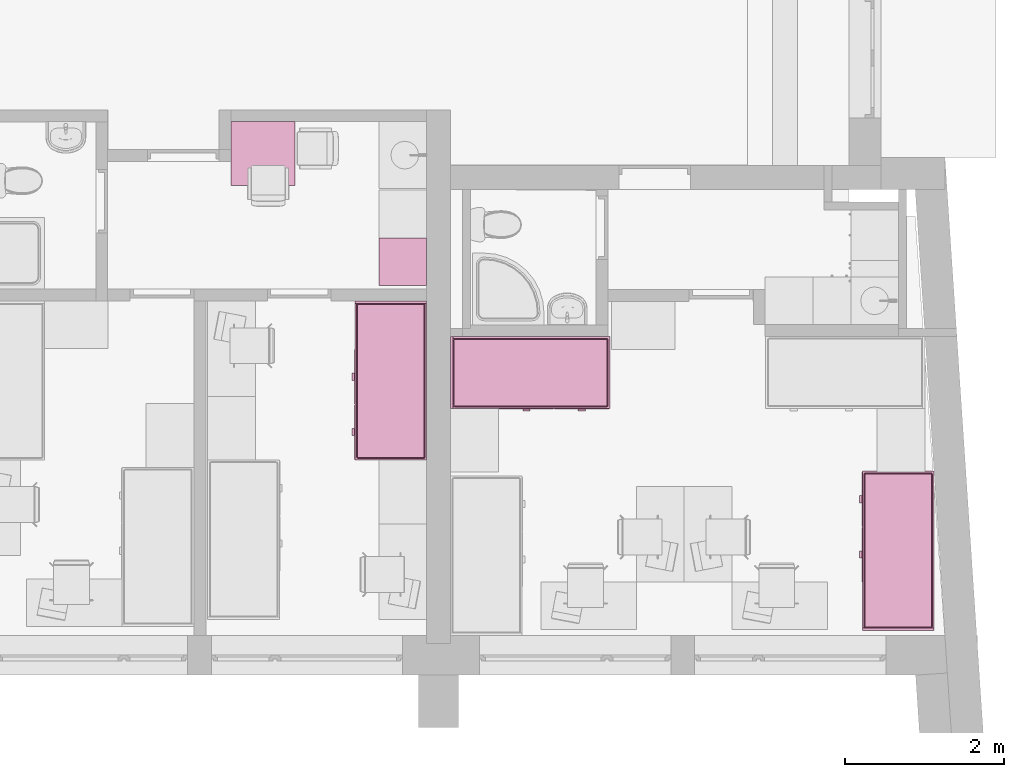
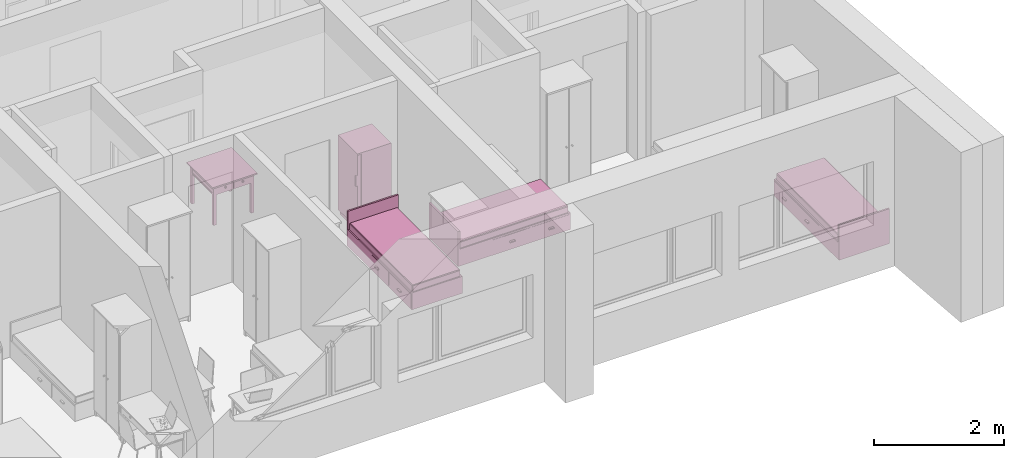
# One storey, part 142 of 165: 5 furnishings.
"""IFC2X3 building model written with IfcOpenShell, lengths in millimetres."""

from ifc_helpers import new_model, entity, si_unit, converted_unit, money_unit, direction, frame, origin_with_axes, place, context, subcontext, project, spatial, open_shell, faceted_brep, surface_model, source, transform, mapped, material, material_list, type_object, element, save


model = new_model("IFC2X3")

# Units and contexts
model_context = context("Model", 3, precision=1e-05, world=origin_with_axes(), true_north=direction((0.0, 1.0)))
body_context = subcontext(model_context, "Body", "Model", "MODEL_VIEW")
ifc_project = project(units=[si_unit("LENGTHUNIT", "METRE", prefix="MILLI"), si_unit("AREAUNIT", "SQUARE_METRE"), si_unit("VOLUMEUNIT", "CUBIC_METRE"), converted_unit("PLANEANGLEUNIT", "DEGREE", entity("IfcPlaneAngleMeasure", 0.0174532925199), si_unit("PLANEANGLEUNIT", "RADIAN"), dimensions=[0, 0, 0, 0, 0, 0, 0]), si_unit("SOLIDANGLEUNIT", "STERADIAN"), money_unit("USD"), converted_unit("TIMEUNIT", "Year", entity("IfcTimeMeasure", 31556926.0), si_unit("TIMEUNIT", "SECOND"), dimensions=[0, 0, 0, 0, 0, 0, 0]), si_unit("MASSUNIT", "GRAM"), si_unit("THERMODYNAMICTEMPERATUREUNIT", "DEGREE_CELSIUS"), si_unit("LUMINOUSINTENSITYUNIT", "LUMEN")], contexts=[model_context])

# Site, building, storey
site_placement = place(None, origin_with_axes())
site = spatial("IfcSite", under=ifc_project, at=site_placement, Name="Site", CompositionType="ELEMENT")
building_placement = place(site_placement, origin_with_axes())
building = spatial("IfcBuilding", under=site, at=building_placement, Name="Building", CompositionType="ELEMENT")
storey_placement = place(building_placement, frame((0.0, 0.0, 6300.0), z_axis=(0.0, 0.0, 1.0), x_axis=(1.0, 0.0, 0.0)))
storey = spatial("IfcBuildingStorey", under=building, at=storey_placement, Name="4KORRUS", CompositionType="ELEMENT", Elevation=6300.0)

# Furnishings
ifc_material = material(Name="Background")
ifc_material_list = material_list([ifc_material])
furnishing_element_type_1 = type_object("IfcFurnishingElementType", Name="Bed 19")
shared_shape_1 = source(origin_with_axes(), body_context, "Body", "Brep", [
    faceted_brep([(900.0, 1970.0, 0.0), (0.0, 1970.0, 0.0), (0.0, 2000.0, 0.0), (900.0, 2000.0, 0.0), (900.0, 1970.0, 660.0), (0.0, 1970.0, 660.0), (0.0, 2000.0, 660.0), (900.0, 2000.0, 660.0)], [[[0, 1, 2, 3]], [[1, 0, 4, 5]], [[2, 1, 5, 6]], [[3, 2, 6, 7]], [[0, 3, 7, 4]], [[5, 4, 7, 6]]]),
    faceted_brep([(900.0, 0.0, 0.0), (0.0, 0.0, 0.0), (0.0, 1970.0, 0.0), (900.0, 1970.0, 0.0), (900.0, 0.0, 320.0), (0.0, 0.0, 320.0), (0.0, 1970.0, 320.0), (900.0, 1970.0, 320.0)], [[[0, 1, 2, 3]], [[1, 0, 4, 5]], [[2, 1, 5, 6]], [[3, 2, 6, 7]], [[0, 3, 7, 4]], [[5, 4, 7, 6]]]),
    faceted_brep([(905.0, 10.0, 30.0), (900.0, 10.0, 30.0), (900.0, 695.0, 30.0), (905.0, 695.0, 30.0), (905.0, 10.0, 290.0), (900.0, 10.0, 290.0), (900.0, 695.0, 290.0), (905.0, 695.0, 290.0)], [[[0, 1, 2, 3]], [[1, 0, 4, 5]], [[2, 1, 5, 6]], [[3, 2, 6, 7]], [[0, 3, 7, 4]], [[5, 4, 7, 6]]]),
    faceted_brep([(935.0, 307.5, 150.0), (905.0, 307.5, 150.0), (905.0, 397.5, 150.0), (935.0, 397.5, 150.0), (935.0, 307.5, 170.0), (905.0, 307.5, 170.0), (905.0, 397.5, 170.0), (935.0, 397.5, 170.0)], [[[0, 1, 2, 3]], [[1, 0, 4, 5]], [[2, 1, 5, 6]], [[3, 2, 6, 7]], [[0, 3, 7, 4]], [[5, 4, 7, 6]]]),
    faceted_brep([(905.0, 705.0, 30.0), (900.0, 705.0, 30.0), (900.0, 1390.0, 30.0), (905.0, 1390.0, 30.0), (905.0, 705.0, 290.0), (900.0, 705.0, 290.0), (900.0, 1390.0, 290.0), (905.0, 1390.0, 290.0)], [[[0, 1, 2, 3]], [[1, 0, 4, 5]], [[2, 1, 5, 6]], [[3, 2, 6, 7]], [[0, 3, 7, 4]], [[5, 4, 7, 6]]]),
    faceted_brep([(935.0, 1002.5, 150.0), (905.0, 1002.5, 150.0), (905.0, 1092.5, 150.0), (935.0, 1092.5, 150.0), (935.0, 1002.5, 170.0), (905.0, 1002.5, 170.0), (905.0, 1092.5, 170.0), (935.0, 1092.5, 170.0)], [[[0, 1, 2, 3]], [[1, 0, 4, 5]], [[2, 1, 5, 6]], [[3, 2, 6, 7]], [[0, 3, 7, 4]], [[5, 4, 7, 6]]]),
    faceted_brep([(20.0, 40.0, 350.0), (20.0, 1950.0, 350.0), (21.522, 1957.654, 350.0), (25.858, 1964.142, 350.0), (32.346, 1968.478, 350.0), (40.0, 1970.0, 350.0), (860.0, 1970.0, 350.0), (867.654, 1968.478, 350.0), (874.142, 1964.142, 350.0), (878.478, 1957.654, 350.0), (880.0, 1950.0, 350.0), (880.0, 40.0, 350.0), (878.478, 32.346, 350.0), (874.142, 25.858, 350.0), (867.654, 21.522, 350.0), (860.0, 20.0, 350.0), (40.0, 20.0, 350.0), (32.346, 21.522, 350.0), (25.858, 25.858, 350.0), (21.522, 32.346, 350.0), (20.0, 40.0, 420.0), (20.0, 1950.0, 420.0), (21.522, 1957.654, 420.0), (25.858, 1964.142, 420.0), (32.346, 1968.478, 420.0), (40.0, 1970.0, 420.0), (860.0, 1970.0, 420.0), (867.654, 1968.478, 420.0), (874.142, 1964.142, 420.0), (878.478, 1957.654, 420.0), (880.0, 1950.0, 420.0), (880.0, 40.0, 420.0), (878.478, 32.346, 420.0), (874.142, 25.858, 420.0), (867.654, 21.522, 420.0), (860.0, 20.0, 420.0), (40.0, 20.0, 420.0), (32.346, 21.522, 420.0), (25.858, 25.858, 420.0), (21.522, 32.346, 420.0), (21.522, 40.15, 427.654), (21.522, 1949.85, 427.654), (22.956, 1957.06, 427.654), (26.955, 1963.045, 427.654), (32.94, 1967.044, 427.654), (40.15, 1968.478, 427.654), (859.85, 1968.478, 427.654), (867.06, 1967.044, 427.654), (873.045, 1963.045, 427.654), (877.044, 1957.06, 427.654), (878.478, 1949.85, 427.654), (878.478, 40.15, 427.654), (877.044, 32.94, 427.654), (873.045, 26.955, 427.654), (867.06, 22.956, 427.654), (859.85, 21.522, 427.654), (40.15, 21.522, 427.654), (32.94, 22.956, 427.654), (26.955, 26.955, 427.654), (22.956, 32.94, 427.654), (32.346, 41.216, 438.478), (32.346, 1948.784, 438.478), (33.152, 1952.836, 438.478), (34.759, 1955.241, 438.478), (37.164, 1956.848, 438.478), (41.216, 1957.654, 438.478), (858.784, 1957.654, 438.478), (862.836, 1956.848, 438.478), (865.241, 1955.241, 438.478), (866.848, 1952.836, 438.478), (867.654, 1948.784, 438.478), (867.654, 41.216, 438.478), (866.848, 37.164, 438.478), (865.241, 34.759, 438.478), (862.836, 33.152, 438.478), (858.784, 32.346, 438.478), (41.216, 32.346, 438.478), (37.164, 33.152, 438.478), (34.759, 34.759, 438.478), (33.152, 37.164, 438.478), (40.0, 41.97, 440.0), (40.0, 1948.03, 440.0), (40.327, 1949.673, 440.0), (40.0, 1950.0, 439.924), (41.97, 1950.0, 440.0), (858.03, 1950.0, 440.0), (859.673, 1949.673, 440.0), (860.0, 1950.0, 439.924), (860.0, 1948.03, 440.0), (860.0, 41.97, 440.0), (859.673, 40.327, 440.0), (860.0, 40.0, 439.924), (858.03, 40.0, 440.0), (41.97, 40.0, 440.0), (40.327, 40.327, 440.0), (40.0, 40.0, 439.924)], [[[0, 1, 2, 3, 4, 5, 6, 7, 8, 9, 10, 11, 12, 13, 14, 15, 16, 17, 18, 19]], [[1, 0, 20, 21]], [[2, 1, 21, 22]], [[3, 2, 22, 23]], [[4, 3, 23, 24]], [[5, 4, 24, 25]], [[6, 5, 25, 26]], [[7, 6, 26, 27]], [[8, 7, 27, 28]], [[9, 8, 28, 29]], [[10, 9, 29, 30]], [[11, 10, 30, 31]], [[12, 11, 31, 32]], [[13, 12, 32, 33]], [[14, 13, 33, 34]], [[15, 14, 34, 35]], [[16, 15, 35, 36]], [[17, 16, 36, 37]], [[18, 17, 37, 38]], [[19, 18, 38, 39]], [[0, 19, 39, 20]], [[21, 20, 40, 41]], [[22, 21, 41, 42]], [[23, 22, 42, 43]], [[24, 23, 43, 44]], [[25, 24, 44, 45]], [[26, 25, 45, 46]], [[27, 26, 46, 47]], [[28, 27, 47, 48]], [[29, 28, 48, 49]], [[30, 29, 49, 50]], [[31, 30, 50, 51]], [[32, 31, 51, 52]], [[33, 32, 52, 53]], [[34, 33, 53, 54]], [[35, 34, 54, 55]], [[36, 35, 55, 56]], [[37, 36, 56, 57]], [[38, 37, 57, 58]], [[39, 38, 58, 59]], [[20, 39, 59, 40]], [[41, 40, 60, 61]], [[42, 41, 61, 62]], [[43, 42, 62, 63]], [[44, 43, 63, 64]], [[45, 44, 64, 65]], [[46, 45, 65, 66]], [[47, 46, 66, 67]], [[48, 47, 67, 68]], [[49, 48, 68, 69]], [[50, 49, 69, 70]], [[51, 50, 70, 71]], [[52, 51, 71, 72]], [[53, 52, 72, 73]], [[54, 53, 73, 74]], [[55, 54, 74, 75]], [[56, 55, 75, 76]], [[57, 56, 76, 77]], [[58, 57, 77, 78]], [[59, 58, 78, 79]], [[40, 59, 79, 60]], [[61, 60, 80, 81]], [[62, 61, 81, 82, 83]], [[63, 62, 83]], [[64, 63, 83]], [[65, 64, 83, 82, 84]], [[66, 65, 84, 85]], [[67, 66, 85, 86, 87]], [[68, 67, 87]], [[69, 68, 87]], [[70, 69, 87, 86, 88]], [[71, 70, 88, 89]], [[72, 71, 89, 90, 91]], [[73, 72, 91]], [[74, 73, 91]], [[75, 74, 91, 90, 92]], [[76, 75, 92, 93]], [[77, 76, 93, 94, 95]], [[78, 77, 95]], [[79, 78, 95]], [[60, 79, 95, 94, 80]], [[81, 80, 94, 93, 92, 90, 89, 88, 86, 85, 84, 82]]]),
    faceted_brep([(20.0, 40.0, 350.0), (21.522, 32.346, 350.0), (25.858, 25.858, 350.0), (32.346, 21.522, 350.0), (40.0, 20.0, 350.0), (860.0, 20.0, 350.0), (867.654, 21.522, 350.0), (874.142, 25.858, 350.0), (878.478, 32.346, 350.0), (880.0, 40.0, 350.0), (880.0, 1950.0, 350.0), (878.478, 1957.654, 350.0), (874.142, 1964.142, 350.0), (867.654, 1968.478, 350.0), (860.0, 1970.0, 350.0), (40.0, 1970.0, 350.0), (32.346, 1968.478, 350.0), (25.858, 1964.142, 350.0), (21.522, 1957.654, 350.0), (20.0, 1950.0, 350.0), (20.0, 40.0, 320.0), (21.522, 32.346, 320.0), (25.858, 25.858, 320.0), (32.346, 21.522, 320.0), (40.0, 20.0, 320.0), (860.0, 20.0, 320.0), (867.654, 21.522, 320.0), (874.142, 25.858, 320.0), (878.478, 32.346, 320.0), (880.0, 40.0, 320.0), (880.0, 1950.0, 320.0), (878.478, 1957.654, 320.0), (874.142, 1964.142, 320.0), (867.654, 1968.478, 320.0), (860.0, 1970.0, 320.0), (40.0, 1970.0, 320.0), (32.346, 1968.478, 320.0), (25.858, 1964.142, 320.0), (21.522, 1957.654, 320.0), (20.0, 1950.0, 320.0)], [[[0, 1, 2, 3, 4, 5, 6, 7, 8, 9, 10, 11, 12, 13, 14, 15, 16, 17, 18, 19]], [[0, 20, 21, 1]], [[1, 21, 22, 2]], [[2, 22, 23, 3]], [[3, 23, 24, 4]], [[4, 24, 25, 5]], [[5, 25, 26, 6]], [[6, 26, 27, 7]], [[7, 27, 28, 8]], [[8, 28, 29, 9]], [[9, 29, 30, 10]], [[10, 30, 31, 11]], [[11, 31, 32, 12]], [[12, 32, 33, 13]], [[13, 33, 34, 14]], [[14, 34, 35, 15]], [[15, 35, 36, 16]], [[16, 36, 37, 17]], [[17, 37, 38, 18]], [[18, 38, 39, 19]], [[19, 39, 20, 0]], [[20, 39, 38, 37, 36, 35, 34, 33, 32, 31, 30, 29, 28, 27, 26, 25, 24, 23, 22, 21]]]),
])
furnishing_1_placement = place(storey_placement, frame((18080.4578375, -17578.2052379, 0.0), z_axis=(0.0, 0.0, 1.0), x_axis=(-1.0, 0.0, 0.0)))
element("IfcFurnishingElement", 1, at=furnishing_1_placement, inside=storey, type_object=furnishing_element_type_1, material=ifc_material_list, Name="FU - 013", context=body_context, shape_type="MappedRepresentation", body=[
    mapped(shared_shape_1, transform((0.0, 0.0, 0.0))),
])
shared_shape_2 = source(origin_with_axes(), body_context, "Body", "Brep", [
    faceted_brep([(-900.0, 1970.0, 0.0), (-900.0, 2000.0, 0.0), (0.0, 2000.0, 0.0), (0.0, 1970.0, 0.0), (-900.0, 1970.0, 660.0), (-900.0, 2000.0, 660.0), (0.0, 2000.0, 660.0), (0.0, 1970.0, 660.0)], [[[0, 1, 2, 3]], [[0, 4, 5, 1]], [[1, 5, 6, 2]], [[2, 6, 7, 3]], [[3, 7, 4, 0]], [[7, 6, 5, 4]]]),
    faceted_brep([(-900.0, 0.0, 0.0), (-900.0, 1970.0, 0.0), (0.0, 1970.0, 0.0), (0.0, 0.0, 0.0), (-900.0, 0.0, 320.0), (-900.0, 1970.0, 320.0), (0.0, 1970.0, 320.0), (0.0, 0.0, 320.0)], [[[0, 1, 2, 3]], [[0, 4, 5, 1]], [[1, 5, 6, 2]], [[2, 6, 7, 3]], [[3, 7, 4, 0]], [[7, 6, 5, 4]]]),
    faceted_brep([(-905.0, 10.0, 30.0), (-905.0, 695.0, 30.0), (-900.0, 695.0, 30.0), (-900.0, 10.0, 30.0), (-905.0, 10.0, 290.0), (-905.0, 695.0, 290.0), (-900.0, 695.0, 290.0), (-900.0, 10.0, 290.0)], [[[0, 1, 2, 3]], [[0, 4, 5, 1]], [[1, 5, 6, 2]], [[2, 6, 7, 3]], [[3, 7, 4, 0]], [[7, 6, 5, 4]]]),
    faceted_brep([(-935.0, 307.5, 150.0), (-935.0, 397.5, 150.0), (-905.0, 397.5, 150.0), (-905.0, 307.5, 150.0), (-935.0, 307.5, 170.0), (-935.0, 397.5, 170.0), (-905.0, 397.5, 170.0), (-905.0, 307.5, 170.0)], [[[0, 1, 2, 3]], [[0, 4, 5, 1]], [[1, 5, 6, 2]], [[2, 6, 7, 3]], [[3, 7, 4, 0]], [[7, 6, 5, 4]]]),
    faceted_brep([(-905.0, 705.0, 30.0), (-905.0, 1390.0, 30.0), (-900.0, 1390.0, 30.0), (-900.0, 705.0, 30.0), (-905.0, 705.0, 290.0), (-905.0, 1390.0, 290.0), (-900.0, 1390.0, 290.0), (-900.0, 705.0, 290.0)], [[[0, 1, 2, 3]], [[0, 4, 5, 1]], [[1, 5, 6, 2]], [[2, 6, 7, 3]], [[3, 7, 4, 0]], [[7, 6, 5, 4]]]),
    faceted_brep([(-935.0, 1002.5, 150.0), (-935.0, 1092.5, 150.0), (-905.0, 1092.5, 150.0), (-905.0, 1002.5, 150.0), (-935.0, 1002.5, 170.0), (-935.0, 1092.5, 170.0), (-905.0, 1092.5, 170.0), (-905.0, 1002.5, 170.0)], [[[0, 1, 2, 3]], [[0, 4, 5, 1]], [[1, 5, 6, 2]], [[2, 6, 7, 3]], [[3, 7, 4, 0]], [[7, 6, 5, 4]]]),
    faceted_brep([(-20.0, 40.0, 350.0), (-21.522, 32.346, 350.0), (-25.858, 25.858, 350.0), (-32.346, 21.522, 350.0), (-40.0, 20.0, 350.0), (-860.0, 20.0, 350.0), (-867.654, 21.522, 350.0), (-874.142, 25.858, 350.0), (-878.478, 32.346, 350.0), (-880.0, 40.0, 350.0), (-880.0, 1950.0, 350.0), (-878.478, 1957.654, 350.0), (-874.142, 1964.142, 350.0), (-867.654, 1968.478, 350.0), (-860.0, 1970.0, 350.0), (-40.0, 1970.0, 350.0), (-32.346, 1968.478, 350.0), (-25.858, 1964.142, 350.0), (-21.522, 1957.654, 350.0), (-20.0, 1950.0, 350.0), (-20.0, 40.0, 420.0), (-21.522, 32.346, 420.0), (-25.858, 25.858, 420.0), (-32.346, 21.522, 420.0), (-40.0, 20.0, 420.0), (-860.0, 20.0, 420.0), (-867.654, 21.522, 420.0), (-874.142, 25.858, 420.0), (-878.478, 32.346, 420.0), (-880.0, 40.0, 420.0), (-880.0, 1950.0, 420.0), (-878.478, 1957.654, 420.0), (-874.142, 1964.142, 420.0), (-867.654, 1968.478, 420.0), (-860.0, 1970.0, 420.0), (-40.0, 1970.0, 420.0), (-32.346, 1968.478, 420.0), (-25.858, 1964.142, 420.0), (-21.522, 1957.654, 420.0), (-20.0, 1950.0, 420.0), (-21.522, 40.15, 427.654), (-22.956, 32.94, 427.654), (-26.955, 26.955, 427.654), (-32.94, 22.956, 427.654), (-40.15, 21.522, 427.654), (-859.85, 21.522, 427.654), (-867.06, 22.956, 427.654), (-873.045, 26.955, 427.654), (-877.044, 32.94, 427.654), (-878.478, 40.15, 427.654), (-878.478, 1949.85, 427.654), (-877.044, 1957.06, 427.654), (-873.045, 1963.045, 427.654), (-867.06, 1967.044, 427.654), (-859.85, 1968.478, 427.654), (-40.15, 1968.478, 427.654), (-32.94, 1967.044, 427.654), (-26.955, 1963.045, 427.654), (-22.956, 1957.06, 427.654), (-21.522, 1949.85, 427.654), (-32.346, 41.216, 438.478), (-33.152, 37.164, 438.478), (-34.759, 34.759, 438.478), (-37.164, 33.152, 438.478), (-41.216, 32.346, 438.478), (-858.784, 32.346, 438.478), (-862.836, 33.152, 438.478), (-865.241, 34.759, 438.478), (-866.848, 37.164, 438.478), (-867.654, 41.216, 438.478), (-867.654, 1948.784, 438.478), (-866.848, 1952.836, 438.478), (-865.241, 1955.241, 438.478), (-862.836, 1956.848, 438.478), (-858.784, 1957.654, 438.478), (-41.216, 1957.654, 438.478), (-37.164, 1956.848, 438.478), (-34.759, 1955.241, 438.478), (-33.152, 1952.836, 438.478), (-32.346, 1948.784, 438.478), (-40.0, 41.97, 440.0), (-40.327, 40.327, 440.0), (-40.0, 40.0, 439.924), (-41.97, 40.0, 440.0), (-858.03, 40.0, 440.0), (-859.673, 40.327, 440.0), (-860.0, 40.0, 439.924), (-860.0, 41.97, 440.0), (-860.0, 1948.03, 440.0), (-859.673, 1949.673, 440.0), (-860.0, 1950.0, 439.924), (-858.03, 1950.0, 440.0), (-41.97, 1950.0, 440.0), (-40.327, 1949.673, 440.0), (-40.0, 1950.0, 439.924), (-40.0, 1948.03, 440.0)], [[[0, 1, 2, 3, 4, 5, 6, 7, 8, 9, 10, 11, 12, 13, 14, 15, 16, 17, 18, 19]], [[0, 20, 21, 1]], [[1, 21, 22, 2]], [[2, 22, 23, 3]], [[3, 23, 24, 4]], [[4, 24, 25, 5]], [[5, 25, 26, 6]], [[6, 26, 27, 7]], [[7, 27, 28, 8]], [[8, 28, 29, 9]], [[9, 29, 30, 10]], [[10, 30, 31, 11]], [[11, 31, 32, 12]], [[12, 32, 33, 13]], [[13, 33, 34, 14]], [[14, 34, 35, 15]], [[15, 35, 36, 16]], [[16, 36, 37, 17]], [[17, 37, 38, 18]], [[18, 38, 39, 19]], [[19, 39, 20, 0]], [[20, 40, 41, 21]], [[21, 41, 42, 22]], [[22, 42, 43, 23]], [[23, 43, 44, 24]], [[24, 44, 45, 25]], [[25, 45, 46, 26]], [[26, 46, 47, 27]], [[27, 47, 48, 28]], [[28, 48, 49, 29]], [[29, 49, 50, 30]], [[30, 50, 51, 31]], [[31, 51, 52, 32]], [[32, 52, 53, 33]], [[33, 53, 54, 34]], [[34, 54, 55, 35]], [[35, 55, 56, 36]], [[36, 56, 57, 37]], [[37, 57, 58, 38]], [[38, 58, 59, 39]], [[39, 59, 40, 20]], [[40, 60, 61, 41]], [[41, 61, 62, 42]], [[42, 62, 63, 43]], [[43, 63, 64, 44]], [[44, 64, 65, 45]], [[45, 65, 66, 46]], [[46, 66, 67, 47]], [[47, 67, 68, 48]], [[48, 68, 69, 49]], [[49, 69, 70, 50]], [[50, 70, 71, 51]], [[51, 71, 72, 52]], [[52, 72, 73, 53]], [[53, 73, 74, 54]], [[54, 74, 75, 55]], [[55, 75, 76, 56]], [[56, 76, 77, 57]], [[57, 77, 78, 58]], [[58, 78, 79, 59]], [[59, 79, 60, 40]], [[60, 80, 81, 82, 61]], [[61, 82, 62]], [[62, 82, 63]], [[63, 82, 81, 83, 64]], [[64, 83, 84, 65]], [[65, 84, 85, 86, 66]], [[66, 86, 67]], [[67, 86, 68]], [[68, 86, 85, 87, 69]], [[69, 87, 88, 70]], [[70, 88, 89, 90, 71]], [[71, 90, 72]], [[72, 90, 73]], [[73, 90, 89, 91, 74]], [[74, 91, 92, 75]], [[75, 92, 93, 94, 76]], [[76, 94, 77]], [[77, 94, 78]], [[78, 94, 93, 95, 79]], [[79, 95, 80, 60]], [[95, 93, 92, 91, 89, 88, 87, 85, 84, 83, 81, 80]]]),
    faceted_brep([(-20.0, 40.0, 350.0), (-20.0, 1950.0, 350.0), (-21.522, 1957.654, 350.0), (-25.858, 1964.142, 350.0), (-32.346, 1968.478, 350.0), (-40.0, 1970.0, 350.0), (-860.0, 1970.0, 350.0), (-867.654, 1968.478, 350.0), (-874.142, 1964.142, 350.0), (-878.478, 1957.654, 350.0), (-880.0, 1950.0, 350.0), (-880.0, 40.0, 350.0), (-878.478, 32.346, 350.0), (-874.142, 25.858, 350.0), (-867.654, 21.522, 350.0), (-860.0, 20.0, 350.0), (-40.0, 20.0, 350.0), (-32.346, 21.522, 350.0), (-25.858, 25.858, 350.0), (-21.522, 32.346, 350.0), (-20.0, 40.0, 320.0), (-20.0, 1950.0, 320.0), (-21.522, 1957.654, 320.0), (-25.858, 1964.142, 320.0), (-32.346, 1968.478, 320.0), (-40.0, 1970.0, 320.0), (-860.0, 1970.0, 320.0), (-867.654, 1968.478, 320.0), (-874.142, 1964.142, 320.0), (-878.478, 1957.654, 320.0), (-880.0, 1950.0, 320.0), (-880.0, 40.0, 320.0), (-878.478, 32.346, 320.0), (-874.142, 25.858, 320.0), (-867.654, 21.522, 320.0), (-860.0, 20.0, 320.0), (-40.0, 20.0, 320.0), (-32.346, 21.522, 320.0), (-25.858, 25.858, 320.0), (-21.522, 32.346, 320.0)], [[[0, 1, 2, 3, 4, 5, 6, 7, 8, 9, 10, 11, 12, 13, 14, 15, 16, 17, 18, 19]], [[1, 0, 20, 21]], [[2, 1, 21, 22]], [[3, 2, 22, 23]], [[4, 3, 23, 24]], [[5, 4, 24, 25]], [[6, 5, 25, 26]], [[7, 6, 26, 27]], [[8, 7, 27, 28]], [[9, 8, 28, 29]], [[10, 9, 29, 30]], [[11, 10, 30, 31]], [[12, 11, 31, 32]], [[13, 12, 32, 33]], [[14, 13, 33, 34]], [[15, 14, 34, 35]], [[16, 15, 35, 36]], [[17, 16, 36, 37]], [[18, 17, 37, 38]], [[19, 18, 38, 39]], [[0, 19, 39, 20]], [[20, 39, 38, 37, 36, 35, 34, 33, 32, 31, 30, 29, 28, 27, 26, 25, 24, 23, 22, 21]]]),
])
for number, where, z_axis, x_axis, name in (
    (2, (11709.7032967, -17439.2398994, 0.0), (0.0, 0.0, 1.0), (1.0, 0.0, 0.0), "FU - 013"),
    (3, (14009.7032967, -15889.0262806, 0.0), (0.0, 0.0, 1.0), (0.0, 1.0, 0.0), "FU - 013"),
):
    element("IfcFurnishingElement", number, at=place(storey_placement, frame(where, z_axis=z_axis, x_axis=x_axis)), inside=storey, type_object=furnishing_element_type_1, material=ifc_material_list, Name=name, context=body_context, shape_type="MappedRepresentation", body=[
        mapped(shared_shape_2, transform((0.0, 0.0, 0.0))),
    ])
furnishing_element_type_2 = type_object("IfcFurnishingElementType", Name="Rectangular Table 01 19")
shared_shape_3 = source(origin_with_axes(), body_context, "Body", "Brep", [
    faceted_brep([(90.0, 40.0, 0.0), (40.0, 40.0, 0.0), (40.0, 90.0, 0.0), (90.0, 90.0, 0.0), (90.0, 40.0, 725.0), (40.0, 40.0, 725.0), (40.0, 90.0, 725.0), (90.0, 90.0, 725.0)], [[[0, 1, 2, 3]], [[1, 0, 4, 5]], [[2, 1, 5, 6]], [[3, 2, 6, 7]], [[0, 3, 7, 4]], [[5, 4, 7, 6]]]),
    faceted_brep([(760.0, 40.0, 0.0), (710.0, 40.0, 0.0), (710.0, 90.0, 0.0), (760.0, 90.0, 0.0), (760.0, 40.0, 725.0), (710.0, 40.0, 725.0), (710.0, 90.0, 725.0), (760.0, 90.0, 725.0)], [[[0, 1, 2, 3]], [[1, 0, 4, 5]], [[2, 1, 5, 6]], [[3, 2, 6, 7]], [[0, 3, 7, 4]], [[5, 4, 7, 6]]]),
    faceted_brep([(90.0, 710.0, 0.0), (40.0, 710.0, 0.0), (40.0, 760.0, 0.0), (90.0, 760.0, 0.0), (90.0, 710.0, 725.0), (40.0, 710.0, 725.0), (40.0, 760.0, 725.0), (90.0, 760.0, 725.0)], [[[0, 1, 2, 3]], [[1, 0, 4, 5]], [[2, 1, 5, 6]], [[3, 2, 6, 7]], [[0, 3, 7, 4]], [[5, 4, 7, 6]]]),
    faceted_brep([(760.0, 710.0, 0.0), (710.0, 710.0, 0.0), (710.0, 760.0, 0.0), (760.0, 760.0, 0.0), (760.0, 710.0, 725.0), (710.0, 710.0, 725.0), (710.0, 760.0, 725.0), (760.0, 760.0, 725.0)], [[[0, 1, 2, 3]], [[1, 0, 4, 5]], [[2, 1, 5, 6]], [[3, 2, 6, 7]], [[0, 3, 7, 4]], [[5, 4, 7, 6]]]),
    faceted_brep([(760.0, 40.0, 565.0), (40.0, 40.0, 565.0), (40.0, 760.0, 565.0), (760.0, 760.0, 565.0), (760.0, 40.0, 585.0), (40.0, 40.0, 585.0), (40.0, 760.0, 585.0), (760.0, 760.0, 585.0)], [[[0, 1, 2, 3]], [[1, 0, 4, 5]], [[2, 1, 5, 6]], [[3, 2, 6, 7]], [[0, 3, 7, 4]], [[5, 4, 7, 6]]]),
    faceted_brep([(710.0, 52.5, 585.0), (90.0, 52.5, 585.0), (90.0, 77.5, 585.0), (710.0, 77.5, 585.0), (710.0, 52.5, 745.0), (90.0, 52.5, 745.0), (90.0, 77.5, 745.0), (710.0, 77.5, 745.0)], [[[0, 1, 2, 3]], [[1, 0, 4, 5]], [[2, 1, 5, 6]], [[3, 2, 6, 7]], [[0, 3, 7, 4]], [[5, 4, 7, 6]]]),
    faceted_brep([(77.5, 90.0, 585.0), (52.5, 90.0, 585.0), (52.5, 710.0, 585.0), (77.5, 710.0, 585.0), (77.5, 90.0, 745.0), (52.5, 90.0, 745.0), (52.5, 710.0, 745.0), (77.5, 710.0, 745.0)], [[[0, 1, 2, 3]], [[1, 0, 4, 5]], [[2, 1, 5, 6]], [[3, 2, 6, 7]], [[0, 3, 7, 4]], [[5, 4, 7, 6]]]),
    faceted_brep([(90.0, 747.5, 585.0), (710.0, 747.5, 585.0), (710.0, 722.5, 585.0), (90.0, 722.5, 585.0), (90.0, 747.5, 745.0), (710.0, 747.5, 745.0), (710.0, 722.5, 745.0), (90.0, 722.5, 745.0)], [[[0, 1, 2, 3]], [[1, 0, 4, 5]], [[2, 1, 5, 6]], [[3, 2, 6, 7]], [[0, 3, 7, 4]], [[5, 4, 7, 6]]]),
    faceted_brep([(722.5, 710.0, 585.0), (747.5, 710.0, 585.0), (747.5, 90.0, 585.0), (722.5, 90.0, 585.0), (722.5, 710.0, 745.0), (747.5, 710.0, 745.0), (747.5, 90.0, 745.0), (722.5, 90.0, 745.0)], [[[0, 1, 2, 3]], [[1, 0, 4, 5]], [[2, 1, 5, 6]], [[3, 2, 6, 7]], [[0, 3, 7, 4]], [[5, 4, 7, 6]]]),
    faceted_brep([(397.5, 40.0, 585.0), (95.0, 40.0, 585.0), (95.0, 60.0, 585.0), (397.5, 60.0, 585.0), (397.5, 40.0, 745.0), (95.0, 40.0, 745.0), (95.0, 60.0, 745.0), (397.5, 60.0, 745.0)], [[[0, 1, 2, 3]], [[1, 0, 4, 5]], [[2, 1, 5, 6]], [[3, 2, 6, 7]], [[0, 3, 7, 4]], [[5, 4, 7, 6]]]),
    faceted_brep([(705.0, 40.0, 585.0), (402.5, 40.0, 585.0), (402.5, 60.0, 585.0), (705.0, 60.0, 585.0), (705.0, 40.0, 745.0), (402.5, 40.0, 745.0), (402.5, 60.0, 745.0), (705.0, 60.0, 745.0)], [[[0, 1, 2, 3]], [[1, 0, 4, 5]], [[2, 1, 5, 6]], [[3, 2, 6, 7]], [[0, 3, 7, 4]], [[5, 4, 7, 6]]]),
    faceted_brep([(254.91, 40.0, 660.0), (251.25, 40.0, 656.34), (246.25, 40.0, 655.0), (241.25, 40.0, 656.34), (237.59, 40.0, 660.0), (236.25, 40.0, 665.0), (237.59, 40.0, 670.0), (241.25, 40.0, 673.66), (246.25, 40.0, 675.0), (251.25, 40.0, 673.66), (254.91, 40.0, 670.0), (256.25, 40.0, 665.0), (254.91, 25.0, 660.0), (251.25, 25.0, 656.34), (246.25, 25.0, 655.0), (241.25, 25.0, 656.34), (237.59, 25.0, 660.0), (236.25, 25.0, 665.0), (237.59, 25.0, 670.0), (241.25, 25.0, 673.66), (246.25, 25.0, 675.0), (251.25, 25.0, 673.66), (254.91, 25.0, 670.0), (256.25, 25.0, 665.0)], [[[0, 1, 2, 3, 4, 5, 6, 7, 8, 9, 10, 11]], [[1, 0, 12, 13]], [[2, 1, 13, 14]], [[3, 2, 14, 15]], [[4, 3, 15, 16]], [[5, 4, 16, 17]], [[6, 5, 17, 18]], [[7, 6, 18, 19]], [[8, 7, 19, 20]], [[9, 8, 20, 21]], [[10, 9, 21, 22]], [[11, 10, 22, 23]], [[0, 11, 23, 12]], [[12, 23, 22, 21, 20, 19, 18, 17, 16, 15, 14, 13]]]),
    faceted_brep([(256.25, 12.01, 665.0), (246.25, 10.0, 665.0), (254.91, 12.01, 660.0), (254.91, 12.01, 670.0), (251.25, 12.01, 656.34), (263.571, 17.5, 665.0), (261.25, 17.5, 656.34), (251.25, 12.01, 673.66), (261.25, 17.5, 673.66), (246.25, 12.01, 655.0), (254.91, 17.5, 650.0), (266.25, 25.0, 665.0), (263.571, 25.0, 655.0), (246.25, 12.01, 675.0), (254.91, 17.5, 680.0), (263.571, 25.0, 675.0), (241.25, 12.01, 656.34), (246.25, 17.5, 647.679), (256.25, 25.0, 647.679), (246.25, 25.0, 645.0), (236.25, 25.0, 647.679), (228.929, 25.0, 655.0), (226.25, 25.0, 665.0), (228.929, 25.0, 675.0), (236.25, 25.0, 682.321), (246.25, 25.0, 685.0), (256.25, 25.0, 682.321), (241.25, 12.01, 673.66), (246.25, 17.5, 682.321), (237.59, 12.01, 660.0), (237.59, 17.5, 650.0), (231.25, 17.5, 656.34), (228.929, 17.5, 665.0), (231.25, 17.5, 673.66), (237.59, 17.5, 680.0), (237.59, 12.01, 670.0), (236.25, 12.01, 665.0)], [[[0, 1, 2]], [[3, 1, 0]], [[2, 1, 4]], [[5, 0, 2, 6]], [[7, 1, 3]], [[8, 3, 0, 5]], [[4, 1, 9]], [[6, 2, 4, 10]], [[11, 5, 6, 12]], [[13, 1, 7]], [[14, 7, 3, 8]], [[15, 8, 5, 11]], [[9, 1, 16]], [[10, 4, 9, 17]], [[12, 6, 10, 18]], [[12, 18, 19, 20, 21, 22, 23, 24, 25, 26, 15, 11]], [[27, 1, 13]], [[28, 13, 7, 14]], [[26, 14, 8, 15]], [[16, 1, 29]], [[17, 9, 16, 30]], [[18, 10, 17, 19]], [[19, 17, 30, 20]], [[20, 30, 31, 21]], [[21, 31, 32, 22]], [[22, 32, 33, 23]], [[23, 33, 34, 24]], [[24, 34, 28, 25]], [[25, 28, 14, 26]], [[35, 1, 27]], [[34, 27, 13, 28]], [[29, 1, 36]], [[30, 16, 29, 31]], [[31, 29, 36, 32]], [[32, 36, 35, 33]], [[33, 35, 27, 34]], [[36, 1, 35]]]),
    faceted_brep([(562.41, 40.0, 660.0), (558.75, 40.0, 656.34), (553.75, 40.0, 655.0), (548.75, 40.0, 656.34), (545.09, 40.0, 660.0), (543.75, 40.0, 665.0), (545.09, 40.0, 670.0), (548.75, 40.0, 673.66), (553.75, 40.0, 675.0), (558.75, 40.0, 673.66), (562.41, 40.0, 670.0), (563.75, 40.0, 665.0), (562.41, 25.0, 660.0), (558.75, 25.0, 656.34), (553.75, 25.0, 655.0), (548.75, 25.0, 656.34), (545.09, 25.0, 660.0), (543.75, 25.0, 665.0), (545.09, 25.0, 670.0), (548.75, 25.0, 673.66), (553.75, 25.0, 675.0), (558.75, 25.0, 673.66), (562.41, 25.0, 670.0), (563.75, 25.0, 665.0)], [[[0, 1, 2, 3, 4, 5, 6, 7, 8, 9, 10, 11]], [[1, 0, 12, 13]], [[2, 1, 13, 14]], [[3, 2, 14, 15]], [[4, 3, 15, 16]], [[5, 4, 16, 17]], [[6, 5, 17, 18]], [[7, 6, 18, 19]], [[8, 7, 19, 20]], [[9, 8, 20, 21]], [[10, 9, 21, 22]], [[11, 10, 22, 23]], [[0, 11, 23, 12]], [[12, 23, 22, 21, 20, 19, 18, 17, 16, 15, 14, 13]]]),
    faceted_brep([(563.75, 12.01, 665.0), (553.75, 10.0, 665.0), (562.41, 12.01, 660.0), (562.41, 12.01, 670.0), (558.75, 12.01, 656.34), (571.071, 17.5, 665.0), (568.75, 17.5, 656.34), (558.75, 12.01, 673.66), (568.75, 17.5, 673.66), (553.75, 12.01, 655.0), (562.41, 17.5, 650.0), (573.75, 25.0, 665.0), (571.071, 25.0, 655.0), (553.75, 12.01, 675.0), (562.41, 17.5, 680.0), (571.071, 25.0, 675.0), (548.75, 12.01, 656.34), (553.75, 17.5, 647.679), (563.75, 25.0, 647.679), (553.75, 25.0, 645.0), (543.75, 25.0, 647.679), (536.429, 25.0, 655.0), (533.75, 25.0, 665.0), (536.429, 25.0, 675.0), (543.75, 25.0, 682.321), (553.75, 25.0, 685.0), (563.75, 25.0, 682.321), (548.75, 12.01, 673.66), (553.75, 17.5, 682.321), (545.09, 12.01, 660.0), (545.09, 17.5, 650.0), (538.75, 17.5, 656.34), (536.429, 17.5, 665.0), (538.75, 17.5, 673.66), (545.09, 17.5, 680.0), (545.09, 12.01, 670.0), (543.75, 12.01, 665.0)], [[[0, 1, 2]], [[3, 1, 0]], [[2, 1, 4]], [[5, 0, 2, 6]], [[7, 1, 3]], [[8, 3, 0, 5]], [[4, 1, 9]], [[6, 2, 4, 10]], [[11, 5, 6, 12]], [[13, 1, 7]], [[14, 7, 3, 8]], [[15, 8, 5, 11]], [[9, 1, 16]], [[10, 4, 9, 17]], [[12, 6, 10, 18]], [[12, 18, 19, 20, 21, 22, 23, 24, 25, 26, 15, 11]], [[27, 1, 13]], [[28, 13, 7, 14]], [[26, 14, 8, 15]], [[16, 1, 29]], [[17, 9, 16, 30]], [[18, 10, 17, 19]], [[19, 17, 30, 20]], [[20, 30, 31, 21]], [[21, 31, 32, 22]], [[22, 32, 33, 23]], [[23, 33, 34, 24]], [[24, 34, 28, 25]], [[25, 28, 14, 26]], [[35, 1, 27]], [[34, 27, 13, 28]], [[29, 1, 36]], [[30, 16, 29, 31]], [[31, 29, 36, 32]], [[32, 36, 35, 33]], [[33, 35, 27, 34]], [[36, 1, 35]]]),
    faceted_brep([(800.0, 0.0, 725.0), (0.0, 0.0, 725.0), (0.0, 800.0, 725.0), (800.0, 800.0, 725.0), (800.0, 0.0, 750.0), (0.0, 0.0, 750.0), (0.0, 800.0, 750.0), (800.0, 800.0, 750.0)], [[[0, 1, 2, 3]], [[1, 0, 4, 5]], [[2, 1, 5, 6]], [[3, 2, 6, 7]], [[0, 3, 7, 4]], [[5, 4, 7, 6]]]),
])
furnishing_2_placement = place(storey_placement, frame((9253.26896176, -13989.2398994, 0.0), z_axis=(0.0, 0.0, 1.0), x_axis=(1.0, 0.0, 0.0)))
element("IfcFurnishingElement", 4, at=furnishing_2_placement, inside=storey, type_object=furnishing_element_type_2, material=ifc_material_list, Name="FU - 011", context=body_context, shape_type="MappedRepresentation", body=[
    mapped(shared_shape_3, transform((0.0, 0.0, 0.0))),
])
furnishing_element_type_3 = type_object("IfcFurnishingElementType", Name="Refrigerator 19")
shared_shape_4 = source(origin_with_axes(), body_context, "Body", "SurfaceModel", [
    faceted_brep([(0.0, 0.0, 1475.0), (600.0, 0.0, 1475.0), (600.0, 0.0, 1500.0), (0.0, 0.0, 1500.0), (0.0, 600.0, 1475.0), (600.0, 600.0, 1475.0), (600.0, 600.0, 1500.0), (0.0, 600.0, 1500.0)], [[[0, 1, 2, 3]], [[0, 4, 5, 1]], [[1, 5, 6, 2]], [[3, 2, 6, 7]], [[4, 0, 3, 7]], [[5, 4, 7, 6]]]),
    faceted_brep([(0.0, 65.0, 0.0), (600.0, 65.0, 0.0), (600.0, 65.0, 1475.0), (0.0, 65.0, 1475.0), (0.0, 600.0, 0.0), (600.0, 600.0, 0.0), (600.0, 600.0, 1475.0), (0.0, 600.0, 1475.0)], [[[0, 1, 2, 3]], [[0, 4, 5, 1]], [[1, 5, 6, 2]], [[3, 2, 6, 7]], [[4, 0, 3, 7]], [[5, 4, 7, 6]]]),
    faceted_brep([(0.0, 30.0, 0.0), (600.0, 30.0, 0.0), (600.0, 30.0, 90.0), (0.0, 30.0, 90.0), (0.0, 60.0, 0.0), (600.0, 60.0, 0.0), (600.0, 60.0, 90.0), (0.0, 60.0, 90.0)], [[[0, 1, 2, 3]], [[0, 4, 5, 1]], [[1, 5, 6, 2]], [[3, 2, 6, 7]], [[4, 0, 3, 7]], [[5, 4, 7, 6]]]),
    faceted_brep([(0.0, 60.0, 90.0), (600.0, 60.0, 90.0), (600.0, 0.0, 90.0), (0.0, 0.0, 90.0), (0.0, 60.0, 1474.5), (600.0, 60.0, 1474.5), (600.0, 0.0, 1474.5), (0.0, 0.0, 1474.5)], [[[0, 1, 2, 3]], [[0, 4, 5, 1]], [[1, 5, 6, 2]], [[3, 2, 6, 7]], [[4, 0, 3, 7]], [[5, 4, 7, 6]]]),
    surface_model("IfcShellBasedSurfaceModel", [(600.0, -30.0, 900.0), (600.0, -30.0, 1100.0), (600.0, 0.0, 1100.0), (600.0, 0.0, 900.0)], [open_shell([[[0, 1, 2, 3]]])]),
    surface_model("IfcShellBasedSurfaceModel", [(600.0, -30.0, 900.0), (600.0, -30.0, 1100.0), (570.0, -30.0, 1100.0), (570.0, -30.0, 900.0)], [open_shell([[[0, 1, 2, 3]]])]),
])
furnishing_3_placement = place(storey_placement, frame((11109.7032967, -14647.2296956, 0.0), z_axis=(0.0, 0.0, 1.0), x_axis=(0.0, -1.0, 0.0)))
element("IfcFurnishingElement", 5, at=furnishing_3_placement, inside=storey, type_object=furnishing_element_type_3, material=ifc_material_list, Name="FU - 007", context=body_context, shape_type="MappedRepresentation", body=[
    mapped(shared_shape_4, transform((0.0, 0.0, 0.0))),
])

save(model, "model.ifc")
